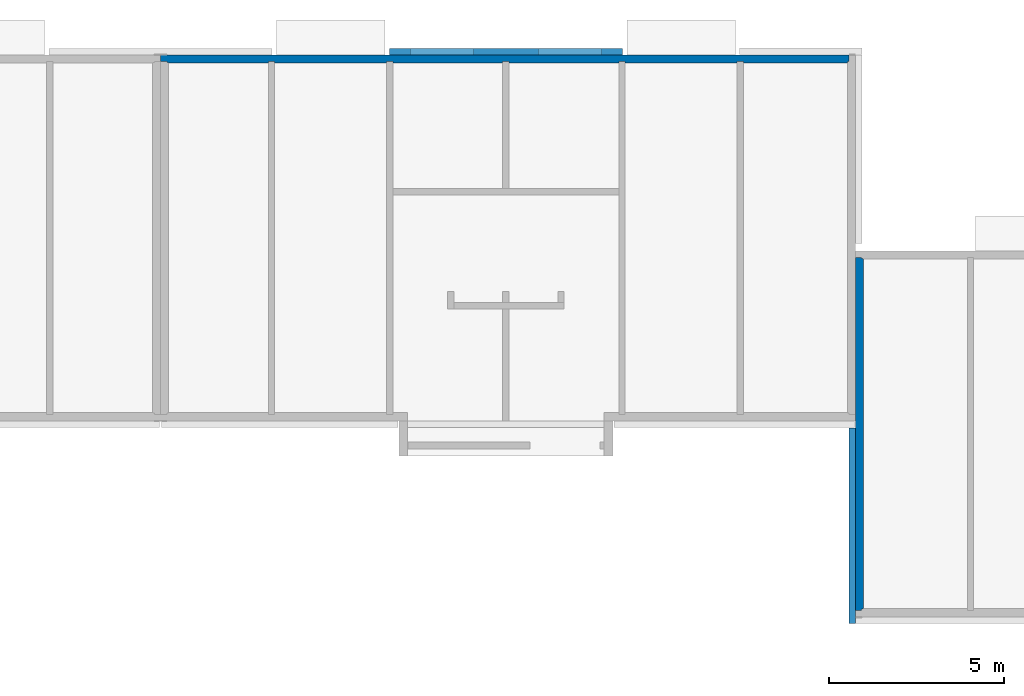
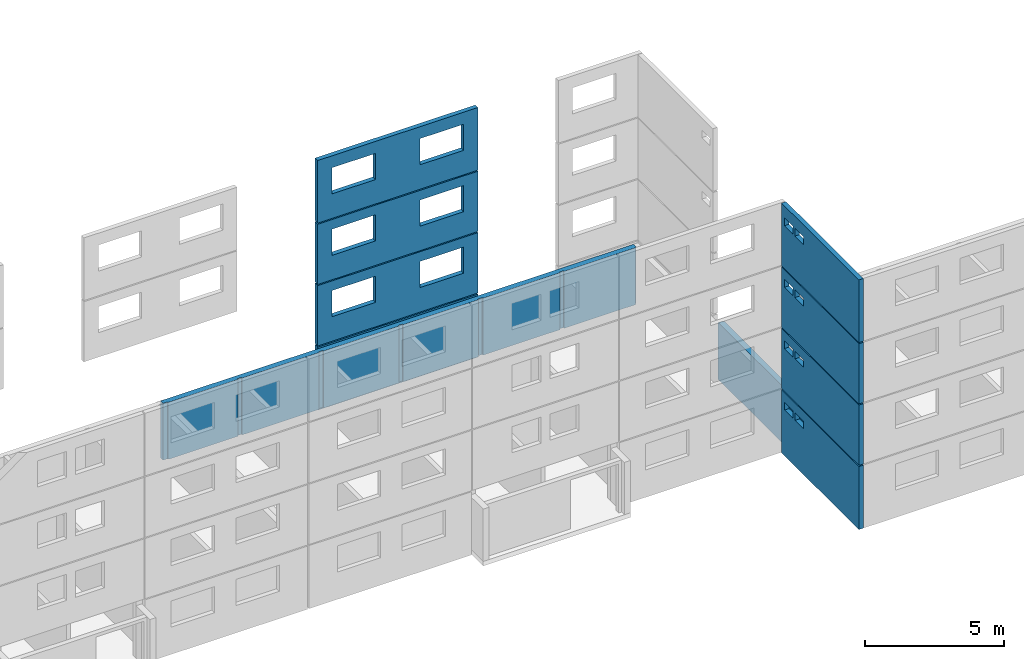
# One storey, part 11 of 15: 10 walls, 16 openings.
"""IFC2X3 building model written with IfcOpenShell, lengths in metres."""

from ifc_helpers import new_model, si_unit, frame, origin, place, context, project, spatial, faceted_brep, element, save


model = new_model("IFC2X3")

# Units and contexts
model_context = context("Model", 3, precision=1e-06, world=origin())
ifc_project = project(units=[si_unit("LENGTHUNIT", "METRE"), si_unit("PLANEANGLEUNIT", "RADIAN")], contexts=[model_context])

# Site, building, storey
site = spatial("IfcSite", under=ifc_project, CompositionType="ELEMENT")
building = spatial("IfcBuilding", under=site, CompositionType="ELEMENT")
storey = spatial("IfcBuildingStorey", under=building, Name="rdc", CompositionType="ELEMENT", Elevation=0.0)

# Wall
placement = place(None, origin())
wall_1_placement = place(placement, frame((39.69999999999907, 4.690077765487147, 0.0), z_axis=(0.0, 0.0, 1.0), x_axis=(0.0, -1.0, 0.0)))
element("IfcWall", 1, at=wall_1_placement, inside=storey, context=model_context, shape_type="Brep", body=[
    faceted_brep([(0.04, 0.18, 2.5), (0.04, 0.22, 2.5), (0.04, 0.22, 0.0), (0.04, 0.18, 0.0), (0.04, 0.22, 2.5), (0.05, 0.22, 2.5), (0.05, 0.22, 0.0), (0.04, 0.22, 0.0), (0.05, 0.22, 2.5), (0.05, 0.23, 2.5), (0.05, 0.23, 0.0), (0.05, 0.22, 0.0), (0.05, 0.23, 2.5), (10.04000021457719, 0.23, 2.5), (10.04000021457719, 0.23, 0.0), (0.05, 0.23, 0.0), (10.04000021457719, 0.23, 2.5), (10.04000021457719, 0.22, 2.5), (10.04000021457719, 0.22, 0.0), (10.04000021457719, 0.23, 0.0), (10.04000021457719, 0.22, 2.5), (10.05000021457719, 0.22, 2.5), (10.05000021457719, 0.22, 0.0), (10.04000021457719, 0.22, 0.0), (10.05000021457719, 0.22, 2.5), (10.05000021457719, 0.18, 2.5), (10.05000021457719, 0.18, 0.0), (10.05000021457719, 0.22, 0.0), (10.05000021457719, 0.18, 2.5), (10.090000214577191, 0.18, 2.5), (10.090000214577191, 0.18, 0.0), (10.05000021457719, 0.18, 0.0), (10.090000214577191, 0.18, 2.5), (10.090000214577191, 0.0, 2.5), (10.090000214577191, 0.0, 0.0), (10.090000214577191, 0.18, 0.0), (10.090000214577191, 0.0, 2.5), (0.0, 0.0, 2.5), (0.0, 0.0, 0.0), (10.090000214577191, 0.0, 0.0), (0.0, 0.0, 2.5), (0.0, 0.18, 2.5), (0.0, 0.18, 0.0), (0.0, 0.0, 0.0), (0.0, 0.18, 2.5), (0.04, 0.18, 2.5), (0.04, 0.18, 0.0), (0.0, 0.18, 0.0), (0.04, 0.18, 2.5), (0.0, 0.18, 2.5), (0.0, 0.0, 2.5), (10.090000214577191, 0.0, 2.5), (10.090000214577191, 0.18, 2.5), (10.05000021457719, 0.18, 2.5), (10.05000021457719, 0.22, 2.5), (10.04000021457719, 0.22, 2.5), (10.04000021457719, 0.23, 2.5), (0.05, 0.23, 2.5), (0.05, 0.22, 2.5), (0.04, 0.22, 2.5), (0.04, 0.18, 0.0), (0.04, 0.22, 0.0), (0.05, 0.22, 0.0), (0.05, 0.23, 0.0), (10.04000021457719, 0.23, 0.0), (10.04000021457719, 0.22, 0.0), (10.05000021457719, 0.22, 0.0), (10.05000021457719, 0.18, 0.0), (10.090000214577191, 0.18, 0.0), (10.090000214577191, 0.0, 0.0), (0.0, 0.0, 0.0), (0.0, 0.18, 0.0)], [[[0, 1, 2, 3]], [[4, 5, 6, 7]], [[8, 9, 10, 11]], [[12, 13, 14, 15]], [[16, 17, 18, 19]], [[20, 21, 22, 23]], [[24, 25, 26, 27]], [[28, 29, 30, 31]], [[32, 33, 34, 35]], [[36, 37, 38, 39]], [[40, 41, 42, 43]], [[44, 45, 46, 47]], [[48, 49, 50, 51, 52, 53, 54, 55, 56, 57, 58, 59]], [[60, 61, 62, 63, 64, 65, 66, 67, 68, 69, 70, 71]]]),
])

# Wall, openings
wall_2_placement = place(placement, frame((33.04499990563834, 10.657077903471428, 8.025000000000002), z_axis=(0.0, 0.0, 1.0), x_axis=(-1.0, 0.0, 0.0)))
wall_2 = element("IfcWall", 2, at=wall_2_placement, inside=storey, context=model_context, shape_type="Brep", body=[
    faceted_brep([(0.0, 0.0, 2.749999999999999), (0.0, 0.187, 2.749999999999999), (0.0, 0.187, 0.0), (0.0, 0.0, 0.0), (0.0, 0.187, 2.749999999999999), (6.659598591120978, 0.187, 2.749999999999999), (6.659598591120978, 0.187, 0.0), (0.0, 0.187, 0.0), (6.659598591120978, 0.187, 2.749999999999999), (6.659598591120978, 0.0, 2.749999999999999), (6.659598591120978, 0.0, 0.0), (6.659598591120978, 0.187, 0.0), (6.659598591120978, 0.0, 2.749999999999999), (0.0, 0.0, 2.749999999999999), (0.0, 0.0, 0.0), (6.659598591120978, 0.0, 0.0), (0.0, 0.0, 2.749999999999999), (6.659598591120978, 0.0, 2.749999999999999), (6.659598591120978, 0.187, 2.749999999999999), (0.0, 0.187, 2.749999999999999), (0.0, 0.0, 0.0), (0.0, 0.187, 0.0), (6.659598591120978, 0.187, 0.0), (6.659598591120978, 0.0, 0.0)], [[[0, 1, 2, 3]], [[4, 5, 6, 7]], [[8, 9, 10, 11]], [[12, 13, 14, 15]], [[16, 17, 18, 19]], [[20, 21, 22, 23]]]),
])
opening_1_placement = place(placement, frame((28.784999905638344, 10.65707790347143, 9.100000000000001), z_axis=(0.0, 0.0, 1.0), x_axis=(-1.0, 0.0, 0.0)))
element("IfcOpeningElement", 3, at=opening_1_placement, cuts=wall_2, Name="Opening", context=model_context, shape_type="Brep", body=[
    faceted_brep([(0.0, 0.186999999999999, 0.0), (1.8, 0.186999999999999, 0.0), (1.8, 0.0, 0.0), (0.0, 0.0, 0.0), (1.8, 0.0, 1.15), (1.8, 0.186999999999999, 1.15), (0.0, 0.186999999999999, 1.15), (0.0, 0.0, 1.15), (0.0, 0.186999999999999, 0.0), (0.0, 0.0, 0.0), (0.0, 0.0, 1.15), (0.0, 0.186999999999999, 1.15), (1.8, 0.186999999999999, 0.0), (0.0, 0.186999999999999, 0.0), (0.0, 0.186999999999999, 1.15), (1.8, 0.186999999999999, 1.15), (1.8, 0.0, 0.0), (1.8, 0.186999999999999, 0.0), (1.8, 0.186999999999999, 1.15), (1.8, 0.0, 1.15), (0.0, 0.0, 0.0), (1.8, 0.0, 0.0), (1.8, 0.0, 1.15), (0.0, 0.0, 1.15)], [[[0, 1, 2, 3]], [[4, 5, 6, 7]], [[8, 9, 10, 11]], [[12, 13, 14, 15]], [[16, 17, 18, 19]], [[20, 21, 22, 23]]]),
])
opening_2_placement = place(placement, frame((32.44499990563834, 10.657077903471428, 9.100000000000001), z_axis=(0.0, 0.0, 1.0), x_axis=(-1.0, 0.0, 0.0)))
element("IfcOpeningElement", 4, at=opening_2_placement, cuts=wall_2, Name="Opening", context=model_context, shape_type="Brep", body=[
    faceted_brep([(0.0, 0.187, 0.0), (1.8, 0.187, 0.0), (1.8, 0.0, 0.0), (0.0, 0.0, 0.0), (1.8, 0.0, 1.15), (1.8, 0.187, 1.15), (0.0, 0.187, 1.15), (0.0, 0.0, 1.15), (0.0, 0.187, 0.0), (0.0, 0.0, 0.0), (0.0, 0.0, 1.15), (0.0, 0.187, 1.15), (1.8, 0.187, 0.0), (0.0, 0.187, 0.0), (0.0, 0.187, 1.15), (1.8, 0.187, 1.15), (1.8, 0.0, 0.0), (1.8, 0.187, 0.0), (1.8, 0.187, 1.15), (1.8, 0.0, 1.15), (0.0, 0.0, 0.0), (1.8, 0.0, 0.0), (1.8, 0.0, 1.15), (0.0, 0.0, 1.15)], [[[0, 1, 2, 3]], [[4, 5, 6, 7]], [[8, 9, 10, 11]], [[12, 13, 14, 15]], [[16, 17, 18, 19]], [[20, 21, 22, 23]]]),
])

wall_3_placement = place(placement, frame((33.04499990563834, 10.657077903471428, 2.625), z_axis=(0.0, 0.0, 1.0), x_axis=(-1.0, 0.0, 0.0)))
wall_3 = element("IfcWall", 5, at=wall_3_placement, inside=storey, context=model_context, shape_type="Brep", body=[
    faceted_brep([(0.0, 0.0, 2.65), (0.0, 0.187, 2.65), (0.0, 0.187, 0.0), (0.0, 0.0, 0.0), (0.0, 0.187, 2.65), (6.659598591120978, 0.187, 2.65), (6.659598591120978, 0.187, 0.0), (0.0, 0.187, 0.0), (6.659598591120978, 0.187, 2.65), (6.659598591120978, 0.0, 2.65), (6.659598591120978, 0.0, 0.0), (6.659598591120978, 0.187, 0.0), (6.659598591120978, 0.0, 2.65), (0.0, 0.0, 2.65), (0.0, 0.0, 0.0), (6.659598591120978, 0.0, 0.0), (0.0, 0.0, 2.65), (6.659598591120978, 0.0, 2.65), (6.659598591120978, 0.187, 2.65), (0.0, 0.187, 2.65), (0.0, 0.0, 0.0), (0.0, 0.187, 0.0), (6.659598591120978, 0.187, 0.0), (6.659598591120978, 0.0, 0.0)], [[[0, 1, 2, 3]], [[4, 5, 6, 7]], [[8, 9, 10, 11]], [[12, 13, 14, 15]], [[16, 17, 18, 19]], [[20, 21, 22, 23]]]),
])
opening_3_placement = place(placement, frame((32.44499990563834, 10.657077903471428, 3.7), z_axis=(0.0, 0.0, 1.0), x_axis=(-1.0, 0.0, 0.0)))
element("IfcOpeningElement", 6, at=opening_3_placement, cuts=wall_3, Name="Opening", context=model_context, shape_type="Brep", body=[
    faceted_brep([(0.0, 0.187, 0.0), (1.8, 0.187, 0.0), (1.8, 0.0, 0.0), (0.0, 0.0, 0.0), (1.8, 0.0, 1.15), (1.8, 0.187, 1.15), (0.0, 0.187, 1.15), (0.0, 0.0, 1.15), (0.0, 0.187, 0.0), (0.0, 0.0, 0.0), (0.0, 0.0, 1.15), (0.0, 0.187, 1.15), (1.8, 0.187, 0.0), (0.0, 0.187, 0.0), (0.0, 0.187, 1.15), (1.8, 0.187, 1.15), (1.8, 0.0, 0.0), (1.8, 0.187, 0.0), (1.8, 0.187, 1.15), (1.8, 0.0, 1.15), (0.0, 0.0, 0.0), (1.8, 0.0, 0.0), (1.8, 0.0, 1.15), (0.0, 0.0, 1.15)], [[[0, 1, 2, 3]], [[4, 5, 6, 7]], [[8, 9, 10, 11]], [[12, 13, 14, 15]], [[16, 17, 18, 19]], [[20, 21, 22, 23]]]),
])
opening_4_placement = place(placement, frame((28.784999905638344, 10.65707790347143, 3.7), z_axis=(0.0, 0.0, 1.0), x_axis=(-1.0, 0.0, 0.0)))
element("IfcOpeningElement", 7, at=opening_4_placement, cuts=wall_3, Name="Opening", context=model_context, shape_type="Brep", body=[
    faceted_brep([(0.0, 0.186999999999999, 0.0), (1.8, 0.186999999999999, 0.0), (1.8, 0.0, 0.0), (0.0, 0.0, 0.0), (1.8, 0.0, 1.15), (1.8, 0.186999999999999, 1.15), (0.0, 0.186999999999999, 1.15), (0.0, 0.0, 1.15), (0.0, 0.186999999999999, 0.0), (0.0, 0.0, 0.0), (0.0, 0.0, 1.15), (0.0, 0.186999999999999, 1.15), (1.8, 0.186999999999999, 0.0), (0.0, 0.186999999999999, 0.0), (0.0, 0.186999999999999, 1.15), (1.8, 0.186999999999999, 1.15), (1.8, 0.0, 0.0), (1.8, 0.186999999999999, 0.0), (1.8, 0.186999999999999, 1.15), (1.8, 0.0, 1.15), (0.0, 0.0, 0.0), (1.8, 0.0, 0.0), (1.8, 0.0, 1.15), (0.0, 0.0, 1.15)], [[[0, 1, 2, 3]], [[4, 5, 6, 7]], [[8, 9, 10, 11]], [[12, 13, 14, 15]], [[16, 17, 18, 19]], [[20, 21, 22, 23]]]),
])

wall_4_placement = place(placement, frame((33.04499990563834, 10.657077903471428, 5.325000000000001), z_axis=(0.0, 0.0, 1.0), x_axis=(-1.0, 0.0, 0.0)))
wall_4 = element("IfcWall", 8, at=wall_4_placement, inside=storey, context=model_context, shape_type="Brep", body=[
    faceted_brep([(0.0, 0.0, 2.65), (0.0, 0.187, 2.65), (0.0, 0.187, 0.0), (0.0, 0.0, 0.0), (0.0, 0.187, 2.65), (6.659598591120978, 0.187, 2.65), (6.659598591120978, 0.187, 0.0), (0.0, 0.187, 0.0), (6.659598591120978, 0.187, 2.65), (6.659598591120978, 0.0, 2.65), (6.659598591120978, 0.0, 0.0), (6.659598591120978, 0.187, 0.0), (6.659598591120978, 0.0, 2.65), (0.0, 0.0, 2.65), (0.0, 0.0, 0.0), (6.659598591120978, 0.0, 0.0), (0.0, 0.0, 2.65), (6.659598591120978, 0.0, 2.65), (6.659598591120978, 0.187, 2.65), (0.0, 0.187, 2.65), (0.0, 0.0, 0.0), (0.0, 0.187, 0.0), (6.659598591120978, 0.187, 0.0), (6.659598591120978, 0.0, 0.0)], [[[0, 1, 2, 3]], [[4, 5, 6, 7]], [[8, 9, 10, 11]], [[12, 13, 14, 15]], [[16, 17, 18, 19]], [[20, 21, 22, 23]]]),
])
opening_5_placement = place(placement, frame((28.784999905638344, 10.65707790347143, 6.4), z_axis=(0.0, 0.0, 1.0), x_axis=(-1.0, 0.0, 0.0)))
element("IfcOpeningElement", 9, at=opening_5_placement, cuts=wall_4, Name="Opening", context=model_context, shape_type="Brep", body=[
    faceted_brep([(0.0, 0.186999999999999, 0.0), (1.8, 0.186999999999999, 0.0), (1.8, 0.0, 0.0), (0.0, 0.0, 0.0), (1.8, 0.0, 1.15), (1.8, 0.186999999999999, 1.15), (0.0, 0.186999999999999, 1.15), (0.0, 0.0, 1.15), (0.0, 0.186999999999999, 0.0), (0.0, 0.0, 0.0), (0.0, 0.0, 1.15), (0.0, 0.186999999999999, 1.15), (1.8, 0.186999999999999, 0.0), (0.0, 0.186999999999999, 0.0), (0.0, 0.186999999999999, 1.15), (1.8, 0.186999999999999, 1.15), (1.8, 0.0, 0.0), (1.8, 0.186999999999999, 0.0), (1.8, 0.186999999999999, 1.15), (1.8, 0.0, 1.15), (0.0, 0.0, 0.0), (1.8, 0.0, 0.0), (1.8, 0.0, 1.15), (0.0, 0.0, 1.15)], [[[0, 1, 2, 3]], [[4, 5, 6, 7]], [[8, 9, 10, 11]], [[12, 13, 14, 15]], [[16, 17, 18, 19]], [[20, 21, 22, 23]]]),
])
opening_6_placement = place(placement, frame((32.44499990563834, 10.657077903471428, 6.4), z_axis=(0.0, 0.0, 1.0), x_axis=(-1.0, 0.0, 0.0)))
element("IfcOpeningElement", 10, at=opening_6_placement, cuts=wall_4, Name="Opening", context=model_context, shape_type="Brep", body=[
    faceted_brep([(0.0, 0.187, 0.0), (1.8, 0.187, 0.0), (1.8, 0.0, 0.0), (0.0, 0.0, 0.0), (1.8, 0.0, 1.15), (1.8, 0.187, 1.15), (0.0, 0.187, 1.15), (0.0, 0.0, 1.15), (0.0, 0.187, 0.0), (0.0, 0.0, 0.0), (0.0, 0.0, 1.15), (0.0, 0.187, 1.15), (1.8, 0.187, 0.0), (0.0, 0.187, 0.0), (0.0, 0.187, 1.15), (1.8, 0.187, 1.15), (1.8, 0.0, 0.0), (1.8, 0.187, 0.0), (1.8, 0.187, 1.15), (1.8, 0.0, 1.15), (0.0, 0.0, 0.0), (1.8, 0.0, 0.0), (1.8, 0.0, 1.15), (0.0, 0.0, 1.15)], [[[0, 1, 2, 3]], [[4, 5, 6, 7]], [[8, 9, 10, 11]], [[12, 13, 14, 15]], [[16, 17, 18, 19]], [[20, 21, 22, 23]]]),
])

wall_5_placement = place(placement, frame((33.04499990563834, 10.657077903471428, -0.2), z_axis=(0.0, 0.0, 1.0), x_axis=(-1.0, 0.0, 0.0)))
wall_5 = element("IfcWall", 11, at=wall_5_placement, inside=storey, context=model_context, shape_type="Brep", body=[
    faceted_brep([(0.0, 0.0, 2.775), (0.0, 0.187, 2.775), (0.0, 0.187, 0.0), (0.0, 0.0, 0.0), (0.0, 0.187, 2.775), (6.659598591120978, 0.187, 2.775), (6.659598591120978, 0.187, 0.0), (0.0, 0.187, 0.0), (6.659598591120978, 0.187, 2.775), (6.659598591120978, 0.0, 2.775), (6.659598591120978, 0.0, 0.0), (6.659598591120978, 0.187, 0.0), (6.659598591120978, 0.0, 2.775), (0.0, 0.0, 2.775), (0.0, 0.0, 0.0), (6.659598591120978, 0.0, 0.0), (0.0, 0.0, 2.775), (6.659598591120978, 0.0, 2.775), (6.659598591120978, 0.187, 2.775), (0.0, 0.187, 2.775), (0.0, 0.0, 0.0), (0.0, 0.187, 0.0), (6.659598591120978, 0.187, 0.0), (6.659598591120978, 0.0, 0.0)], [[[0, 1, 2, 3]], [[4, 5, 6, 7]], [[8, 9, 10, 11]], [[12, 13, 14, 15]], [[16, 17, 18, 19]], [[20, 21, 22, 23]]]),
])
opening_7_placement = place(placement, frame((32.44499990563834, 10.657077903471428, 1.0), z_axis=(0.0, 0.0, 1.0), x_axis=(-1.0, 0.0, 0.0)))
element("IfcOpeningElement", 12, at=opening_7_placement, cuts=wall_5, Name="Opening", context=model_context, shape_type="Brep", body=[
    faceted_brep([(0.0, 0.187, 0.0), (1.8, 0.187, 0.0), (1.8, 0.0, 0.0), (0.0, 0.0, 0.0), (1.8, 0.0, 1.15), (1.8, 0.187, 1.15), (0.0, 0.187, 1.15), (0.0, 0.0, 1.15), (0.0, 0.187, 0.0), (0.0, 0.0, 0.0), (0.0, 0.0, 1.15), (0.0, 0.187, 1.15), (1.8, 0.187, 0.0), (0.0, 0.187, 0.0), (0.0, 0.187, 1.15), (1.8, 0.187, 1.15), (1.8, 0.0, 0.0), (1.8, 0.187, 0.0), (1.8, 0.187, 1.15), (1.8, 0.0, 1.15), (0.0, 0.0, 0.0), (1.8, 0.0, 0.0), (1.8, 0.0, 1.15), (0.0, 0.0, 1.15)], [[[0, 1, 2, 3]], [[4, 5, 6, 7]], [[8, 9, 10, 11]], [[12, 13, 14, 15]], [[16, 17, 18, 19]], [[20, 21, 22, 23]]]),
])
opening_8_placement = place(placement, frame((28.784999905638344, 10.65707790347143, 1.0), z_axis=(0.0, 0.0, 1.0), x_axis=(-1.0, 0.0, 0.0)))
element("IfcOpeningElement", 13, at=opening_8_placement, cuts=wall_5, Name="Opening", context=model_context, shape_type="Brep", body=[
    faceted_brep([(0.0, 0.186999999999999, 0.0), (1.8, 0.186999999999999, 0.0), (1.8, 0.0, 0.0), (0.0, 0.0, 0.0), (1.8, 0.0, 1.15), (1.8, 0.186999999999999, 1.15), (0.0, 0.186999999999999, 1.15), (0.0, 0.0, 1.15), (0.0, 0.186999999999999, 0.0), (0.0, 0.0, 0.0), (0.0, 0.0, 1.15), (0.0, 0.186999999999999, 1.15), (1.8, 0.186999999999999, 0.0), (0.0, 0.186999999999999, 0.0), (0.0, 0.186999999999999, 1.15), (1.8, 0.186999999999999, 1.15), (1.8, 0.0, 0.0), (1.8, 0.186999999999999, 0.0), (1.8, 0.186999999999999, 1.15), (1.8, 0.0, 1.15), (0.0, 0.0, 0.0), (1.8, 0.0, 0.0), (1.8, 0.0, 1.15), (0.0, 0.0, 1.15)], [[[0, 1, 2, 3]], [[4, 5, 6, 7]], [[8, 9, 10, 11]], [[12, 13, 14, 15]], [[16, 17, 18, 19]], [[20, 21, 22, 23]]]),
])

wall_6_placement = place(placement, frame((39.69999999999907, -5.766922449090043, 8.025000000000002), z_axis=(0.0, 0.0, 1.0), x_axis=(0.0, 1.0, 0.0)))
wall_6 = element("IfcWall", 14, at=wall_6_placement, inside=storey, context=model_context, shape_type="Brep", body=[
    faceted_brep([(0.0, 0.0, 2.75), (0.0, 0.187, 2.75), (0.0, 0.187, 0.0), (0.0, 0.0, 0.0), (0.0, 0.187, 2.75), (5.575170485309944, 0.187, 2.75), (5.575170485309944, 0.187, 0.0), (0.0, 0.187, 0.0), (5.575170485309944, 0.187, 2.75), (5.575170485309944, 0.0, 2.75), (5.575170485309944, 0.0, 0.0), (5.575170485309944, 0.187, 0.0), (5.575170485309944, 0.0, 2.75), (0.0, 0.0, 2.75), (0.0, 0.0, 0.0), (5.575170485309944, 0.0, 0.0), (0.0, 0.0, 2.75), (5.575170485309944, 0.0, 2.75), (5.575170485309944, 0.187, 2.75), (0.0, 0.187, 2.75), (0.0, 0.0, 0.0), (0.0, 0.187, 0.0), (5.575170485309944, 0.187, 0.0), (5.575170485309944, 0.0, 0.0)], [[[0, 1, 2, 3]], [[4, 5, 6, 7]], [[8, 9, 10, 11]], [[12, 13, 14, 15]], [[16, 17, 18, 19]], [[20, 21, 22, 23]]]),
])
opening_9_placement = place(placement, frame((39.512999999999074, -1.158922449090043, 9.910000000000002), z_axis=(0.0, 0.0, 1.0), x_axis=(0.0, -1.0, 0.0)))
element("IfcOpeningElement", 15, at=opening_9_placement, cuts=wall_6, Name="Opening", context=model_context, shape_type="Brep", body=[
    faceted_brep([(0.0, 0.187, 0.0), (0.6, 0.187, 0.0), (0.6, 0.0, 0.0), (0.0, 0.0, 0.0), (0.6, 0.0, 0.34), (0.6, 0.187, 0.34), (0.0, 0.187, 0.34), (0.0, 0.0, 0.34), (0.0, 0.187, 0.0), (0.0, 0.0, 0.0), (0.0, 0.0, 0.34), (0.0, 0.187, 0.34), (0.6, 0.187, 0.0), (0.0, 0.187, 0.0), (0.0, 0.187, 0.34), (0.6, 0.187, 0.34), (0.6, 0.0, 0.0), (0.6, 0.187, 0.0), (0.6, 0.187, 0.34), (0.6, 0.0, 0.34), (0.0, 0.0, 0.0), (0.6, 0.0, 0.0), (0.6, 0.0, 0.34), (0.0, 0.0, 0.34)], [[[0, 1, 2, 3]], [[4, 5, 6, 7]], [[8, 9, 10, 11]], [[12, 13, 14, 15]], [[16, 17, 18, 19]], [[20, 21, 22, 23]]]),
])
opening_10_placement = place(placement, frame((39.512999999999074, -0.408922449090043, 9.910000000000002), z_axis=(0.0, 0.0, 1.0), x_axis=(0.0, -1.0, 0.0)))
element("IfcOpeningElement", 16, at=opening_10_placement, cuts=wall_6, Name="Opening", context=model_context, shape_type="Brep", body=[
    faceted_brep([(0.0, 0.186999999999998, 0.0), (0.6, 0.186999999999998, 0.0), (0.6, 0.0, 0.0), (0.0, 0.0, 0.0), (0.6, 0.0, 0.34), (0.6, 0.186999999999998, 0.34), (0.0, 0.186999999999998, 0.34), (0.0, 0.0, 0.34), (0.0, 0.186999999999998, 0.0), (0.0, 0.0, 0.0), (0.0, 0.0, 0.34), (0.0, 0.186999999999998, 0.34), (0.6, 0.186999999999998, 0.0), (0.0, 0.186999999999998, 0.0), (0.0, 0.186999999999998, 0.34), (0.6, 0.186999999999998, 0.34), (0.6, 0.0, 0.0), (0.6, 0.186999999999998, 0.0), (0.6, 0.186999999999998, 0.34), (0.6, 0.0, 0.34), (0.0, 0.0, 0.0), (0.6, 0.0, 0.0), (0.6, 0.0, 0.34), (0.0, 0.0, 0.34)], [[[0, 1, 2, 3]], [[4, 5, 6, 7]], [[8, 9, 10, 11]], [[12, 13, 14, 15]], [[16, 17, 18, 19]], [[20, 21, 22, 23]]]),
])

wall_7_placement = place(placement, frame((39.69999999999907, -5.766922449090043, 2.625000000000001), z_axis=(0.0, 0.0, 1.0), x_axis=(0.0, 1.0, 0.0)))
wall_7 = element("IfcWall", 17, at=wall_7_placement, inside=storey, context=model_context, shape_type="Brep", body=[
    faceted_brep([(0.0, 0.0, 2.65), (0.0, 0.187, 2.65), (0.0, 0.187, 0.0), (0.0, 0.0, 0.0), (0.0, 0.187, 2.65), (5.575170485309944, 0.187, 2.65), (5.575170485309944, 0.187, 0.0), (0.0, 0.187, 0.0), (5.575170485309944, 0.187, 2.65), (5.575170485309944, 0.0, 2.65), (5.575170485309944, 0.0, 0.0), (5.575170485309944, 0.187, 0.0), (5.575170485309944, 0.0, 2.65), (0.0, 0.0, 2.65), (0.0, 0.0, 0.0), (5.575170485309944, 0.0, 0.0), (0.0, 0.0, 2.65), (5.575170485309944, 0.0, 2.65), (5.575170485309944, 0.187, 2.65), (0.0, 0.187, 2.65), (0.0, 0.0, 0.0), (0.0, 0.187, 0.0), (5.575170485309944, 0.187, 0.0), (5.575170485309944, 0.0, 0.0)], [[[0, 1, 2, 3]], [[4, 5, 6, 7]], [[8, 9, 10, 11]], [[12, 13, 14, 15]], [[16, 17, 18, 19]], [[20, 21, 22, 23]]]),
])
opening_11_placement = place(placement, frame((39.512999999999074, -0.408922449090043, 4.510000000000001), z_axis=(0.0, 0.0, 1.0), x_axis=(0.0, -1.0, 0.0)))
element("IfcOpeningElement", 18, at=opening_11_placement, cuts=wall_7, Name="Opening", context=model_context, shape_type="Brep", body=[
    faceted_brep([(0.0, 0.186999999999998, 0.0), (0.6, 0.186999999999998, 0.0), (0.6, 0.0, 0.0), (0.0, 0.0, 0.0), (0.6, 0.0, 0.34), (0.6, 0.186999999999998, 0.34), (0.0, 0.186999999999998, 0.34), (0.0, 0.0, 0.34), (0.0, 0.186999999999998, 0.0), (0.0, 0.0, 0.0), (0.0, 0.0, 0.34), (0.0, 0.186999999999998, 0.34), (0.6, 0.186999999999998, 0.0), (0.0, 0.186999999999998, 0.0), (0.0, 0.186999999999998, 0.34), (0.6, 0.186999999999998, 0.34), (0.6, 0.0, 0.0), (0.6, 0.186999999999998, 0.0), (0.6, 0.186999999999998, 0.34), (0.6, 0.0, 0.34), (0.0, 0.0, 0.0), (0.6, 0.0, 0.0), (0.6, 0.0, 0.34), (0.0, 0.0, 0.34)], [[[0, 1, 2, 3]], [[4, 5, 6, 7]], [[8, 9, 10, 11]], [[12, 13, 14, 15]], [[16, 17, 18, 19]], [[20, 21, 22, 23]]]),
])
opening_12_placement = place(placement, frame((39.512999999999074, -1.158922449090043, 4.510000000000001), z_axis=(0.0, 0.0, 1.0), x_axis=(0.0, -1.0, 0.0)))
element("IfcOpeningElement", 19, at=opening_12_placement, cuts=wall_7, Name="Opening", context=model_context, shape_type="Brep", body=[
    faceted_brep([(0.0, 0.187, 0.0), (0.6, 0.187, 0.0), (0.6, 0.0, 0.0), (0.0, 0.0, 0.0), (0.6, 0.0, 0.34), (0.6, 0.187, 0.34), (0.0, 0.187, 0.34), (0.0, 0.0, 0.34), (0.0, 0.187, 0.0), (0.0, 0.0, 0.0), (0.0, 0.0, 0.34), (0.0, 0.187, 0.34), (0.6, 0.187, 0.0), (0.0, 0.187, 0.0), (0.0, 0.187, 0.34), (0.6, 0.187, 0.34), (0.6, 0.0, 0.0), (0.6, 0.187, 0.0), (0.6, 0.187, 0.34), (0.6, 0.0, 0.34), (0.0, 0.0, 0.0), (0.6, 0.0, 0.0), (0.6, 0.0, 0.34), (0.0, 0.0, 0.34)], [[[0, 1, 2, 3]], [[4, 5, 6, 7]], [[8, 9, 10, 11]], [[12, 13, 14, 15]], [[16, 17, 18, 19]], [[20, 21, 22, 23]]]),
])

wall_8_placement = place(placement, frame((39.69999999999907, -5.766922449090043, 5.325000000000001), z_axis=(0.0, 0.0, 1.0), x_axis=(0.0, 1.0, 0.0)))
wall_8 = element("IfcWall", 20, at=wall_8_placement, inside=storey, context=model_context, shape_type="Brep", body=[
    faceted_brep([(0.0, 0.0, 2.65), (0.0, 0.187, 2.65), (0.0, 0.187, 0.0), (0.0, 0.0, 0.0), (0.0, 0.187, 2.65), (5.575170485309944, 0.187, 2.65), (5.575170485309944, 0.187, 0.0), (0.0, 0.187, 0.0), (5.575170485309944, 0.187, 2.65), (5.575170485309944, 0.0, 2.65), (5.575170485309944, 0.0, 0.0), (5.575170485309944, 0.187, 0.0), (5.575170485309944, 0.0, 2.65), (0.0, 0.0, 2.65), (0.0, 0.0, 0.0), (5.575170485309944, 0.0, 0.0), (0.0, 0.0, 2.65), (5.575170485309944, 0.0, 2.65), (5.575170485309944, 0.187, 2.65), (0.0, 0.187, 2.65), (0.0, 0.0, 0.0), (0.0, 0.187, 0.0), (5.575170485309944, 0.187, 0.0), (5.575170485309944, 0.0, 0.0)], [[[0, 1, 2, 3]], [[4, 5, 6, 7]], [[8, 9, 10, 11]], [[12, 13, 14, 15]], [[16, 17, 18, 19]], [[20, 21, 22, 23]]]),
])
opening_13_placement = place(placement, frame((39.512999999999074, -1.158922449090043, 7.210000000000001), z_axis=(0.0, 0.0, 1.0), x_axis=(0.0, -1.0, 0.0)))
element("IfcOpeningElement", 21, at=opening_13_placement, cuts=wall_8, Name="Opening", context=model_context, shape_type="Brep", body=[
    faceted_brep([(0.0, 0.187, 0.0), (0.6, 0.187, 0.0), (0.6, 0.0, 0.0), (0.0, 0.0, 0.0), (0.6, 0.0, 0.34), (0.6, 0.187, 0.34), (0.0, 0.187, 0.34), (0.0, 0.0, 0.34), (0.0, 0.187, 0.0), (0.0, 0.0, 0.0), (0.0, 0.0, 0.34), (0.0, 0.187, 0.34), (0.6, 0.187, 0.0), (0.0, 0.187, 0.0), (0.0, 0.187, 0.34), (0.6, 0.187, 0.34), (0.6, 0.0, 0.0), (0.6, 0.187, 0.0), (0.6, 0.187, 0.34), (0.6, 0.0, 0.34), (0.0, 0.0, 0.0), (0.6, 0.0, 0.0), (0.6, 0.0, 0.34), (0.0, 0.0, 0.34)], [[[0, 1, 2, 3]], [[4, 5, 6, 7]], [[8, 9, 10, 11]], [[12, 13, 14, 15]], [[16, 17, 18, 19]], [[20, 21, 22, 23]]]),
])
opening_14_placement = place(placement, frame((39.512999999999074, -0.408922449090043, 7.210000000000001), z_axis=(0.0, 0.0, 1.0), x_axis=(0.0, -1.0, 0.0)))
element("IfcOpeningElement", 22, at=opening_14_placement, cuts=wall_8, Name="Opening", context=model_context, shape_type="Brep", body=[
    faceted_brep([(0.0, 0.186999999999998, 0.0), (0.6, 0.186999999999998, 0.0), (0.6, 0.0, 0.0), (0.0, 0.0, 0.0), (0.6, 0.0, 0.34), (0.6, 0.186999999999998, 0.34), (0.0, 0.186999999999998, 0.34), (0.0, 0.0, 0.34), (0.0, 0.186999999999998, 0.0), (0.0, 0.0, 0.0), (0.0, 0.0, 0.34), (0.0, 0.186999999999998, 0.34), (0.6, 0.186999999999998, 0.0), (0.0, 0.186999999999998, 0.0), (0.0, 0.186999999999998, 0.34), (0.6, 0.186999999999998, 0.34), (0.6, 0.0, 0.0), (0.6, 0.186999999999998, 0.0), (0.6, 0.186999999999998, 0.34), (0.6, 0.0, 0.34), (0.0, 0.0, 0.0), (0.6, 0.0, 0.0), (0.6, 0.0, 0.34), (0.0, 0.0, 0.34)], [[[0, 1, 2, 3]], [[4, 5, 6, 7]], [[8, 9, 10, 11]], [[12, 13, 14, 15]], [[16, 17, 18, 19]], [[20, 21, 22, 23]]]),
])

wall_9_placement = place(placement, frame((39.69999999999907, -5.766922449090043, -0.199999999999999), z_axis=(0.0, 0.0, 1.0), x_axis=(0.0, 1.0, 0.0)))
wall_9 = element("IfcWall", 23, at=wall_9_placement, inside=storey, context=model_context, shape_type="Brep", body=[
    faceted_brep([(0.0, 0.0, 2.775), (0.0, 0.187, 2.775), (0.0, 0.187, 0.0), (0.0, 0.0, 0.0), (0.0, 0.187, 2.775), (5.575170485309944, 0.187, 2.775), (5.575170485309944, 0.187, 0.0), (0.0, 0.187, 0.0), (5.575170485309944, 0.187, 2.775), (5.575170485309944, 0.0, 2.775), (5.575170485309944, 0.0, 0.0), (5.575170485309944, 0.187, 0.0), (5.575170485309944, 0.0, 2.775), (0.0, 0.0, 2.775), (0.0, 0.0, 0.0), (5.575170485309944, 0.0, 0.0), (0.0, 0.0, 2.775), (5.575170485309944, 0.0, 2.775), (5.575170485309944, 0.187, 2.775), (0.0, 0.187, 2.775), (0.0, 0.0, 0.0), (0.0, 0.187, 0.0), (5.575170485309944, 0.187, 0.0), (5.575170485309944, 0.0, 0.0)], [[[0, 1, 2, 3]], [[4, 5, 6, 7]], [[8, 9, 10, 11]], [[12, 13, 14, 15]], [[16, 17, 18, 19]], [[20, 21, 22, 23]]]),
])
opening_15_placement = place(placement, frame((39.512999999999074, -1.158922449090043, 1.810000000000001), z_axis=(0.0, 0.0, 1.0), x_axis=(0.0, -1.0, 0.0)))
element("IfcOpeningElement", 24, at=opening_15_placement, cuts=wall_9, Name="Opening", context=model_context, shape_type="Brep", body=[
    faceted_brep([(0.0, 0.187, 0.0), (0.6, 0.187, 0.0), (0.6, 0.0, 0.0), (0.0, 0.0, 0.0), (0.6, 0.0, 0.34), (0.6, 0.187, 0.34), (0.0, 0.187, 0.34), (0.0, 0.0, 0.34), (0.0, 0.187, 0.0), (0.0, 0.0, 0.0), (0.0, 0.0, 0.34), (0.0, 0.187, 0.34), (0.6, 0.187, 0.0), (0.0, 0.187, 0.0), (0.0, 0.187, 0.34), (0.6, 0.187, 0.34), (0.6, 0.0, 0.0), (0.6, 0.187, 0.0), (0.6, 0.187, 0.34), (0.6, 0.0, 0.34), (0.0, 0.0, 0.0), (0.6, 0.0, 0.0), (0.6, 0.0, 0.34), (0.0, 0.0, 0.34)], [[[0, 1, 2, 3]], [[4, 5, 6, 7]], [[8, 9, 10, 11]], [[12, 13, 14, 15]], [[16, 17, 18, 19]], [[20, 21, 22, 23]]]),
])
opening_16_placement = place(placement, frame((39.512999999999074, -0.408922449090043, 1.810000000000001), z_axis=(0.0, 0.0, 1.0), x_axis=(0.0, -1.0, 0.0)))
element("IfcOpeningElement", 25, at=opening_16_placement, cuts=wall_9, Name="Opening", context=model_context, shape_type="Brep", body=[
    faceted_brep([(0.0, 0.186999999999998, 0.0), (0.6, 0.186999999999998, 0.0), (0.6, 0.0, 0.0), (0.0, 0.0, 0.0), (0.6, 0.0, 0.34), (0.6, 0.186999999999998, 0.34), (0.0, 0.186999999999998, 0.34), (0.0, 0.0, 0.34), (0.0, 0.186999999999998, 0.0), (0.0, 0.0, 0.0), (0.0, 0.0, 0.34), (0.0, 0.186999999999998, 0.34), (0.6, 0.186999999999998, 0.0), (0.0, 0.186999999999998, 0.0), (0.0, 0.186999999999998, 0.34), (0.6, 0.186999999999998, 0.34), (0.6, 0.0, 0.0), (0.6, 0.186999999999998, 0.0), (0.6, 0.186999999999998, 0.34), (0.6, 0.0, 0.34), (0.0, 0.0, 0.0), (0.6, 0.0, 0.0), (0.6, 0.0, 0.34), (0.0, 0.0, 0.34)], [[[0, 1, 2, 3]], [[4, 5, 6, 7]], [[8, 9, 10, 11]], [[12, 13, 14, 15]], [[16, 17, 18, 19]], [[20, 21, 22, 23]]]),
])

# Wall
wall_10_placement = place(placement, frame((39.51999999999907, 10.470077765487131, 0.0), z_axis=(0.0, 0.0, 1.0), x_axis=(-1.0, 0.0, 0.0)))
element("IfcWall", 26, at=wall_10_placement, inside=storey, context=model_context, shape_type="Brep", body=[
    faceted_brep([(19.44999999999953, 0.23, 2.5), (19.44999999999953, 0.22, 2.5), (19.44999999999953, 0.22, 0.0), (19.44999999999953, 0.23, 0.0), (19.44999999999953, 0.22, 2.5), (19.48999999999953, 0.22, 2.5), (19.48999999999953, 0.22, 0.0), (19.44999999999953, 0.22, 0.0), (19.48999999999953, 0.22, 2.5), (19.48999999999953, 0.18, 2.5), (19.48999999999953, 0.18, 0.0), (19.48999999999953, 0.22, 0.0), (19.48999999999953, 0.18, 2.5), (19.669999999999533, 0.18, 2.5), (19.669999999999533, 0.18, 0.0), (19.48999999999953, 0.18, 0.0), (19.669999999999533, 0.18, 2.5), (19.669999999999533, 0.0, 2.5), (19.669999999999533, 0.0, 0.0), (19.669999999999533, 0.18, 0.0), (19.669999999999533, 0.0, 2.5), (0.0, 0.0, 2.5), (0.0, 0.0, 0.0), (19.669999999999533, 0.0, 0.0), (0.0, 0.0, 2.5), (0.0, 0.18, 2.5), (0.0, 0.18, 0.0), (0.0, 0.0, 0.0), (0.0, 0.18, 2.5), (0.04, 0.18, 2.5), (0.04, 0.18, 0.0), (0.0, 0.18, 0.0), (0.04, 0.18, 2.5), (0.04, 0.22, 2.5), (0.04, 0.22, 0.0), (0.04, 0.18, 0.0), (0.04, 0.22, 2.5), (0.05, 0.22, 2.5), (0.05, 0.22, 0.0), (0.04, 0.22, 0.0), (0.05, 0.22, 2.5), (0.05, 0.23, 2.5), (0.05, 0.23, 0.0), (0.05, 0.22, 0.0), (0.05, 0.23, 2.5), (3.019999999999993, 0.23, 2.5), (3.019999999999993, 0.23, 0.0), (0.05, 0.23, 0.0), (3.019999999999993, 0.23, 2.5), (3.019999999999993, 0.18, 2.5), (3.019999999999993, 0.18, 0.0), (3.019999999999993, 0.23, 0.0), (3.019999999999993, 0.18, 2.5), (3.199999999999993, 0.18, 2.5), (3.199999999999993, 0.18, 0.0), (3.019999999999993, 0.18, 0.0), (3.199999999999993, 0.18, 2.5), (3.199999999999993, 0.23, 2.5), (3.199999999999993, 0.23, 0.0), (3.199999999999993, 0.18, 0.0), (3.199999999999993, 0.23, 2.5), (6.4, 0.229999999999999, 2.5), (6.4, 0.229999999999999, 0.0), (3.199999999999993, 0.23, 0.0), (6.4, 0.229999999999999, 2.5), (6.4, 0.180000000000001, 2.5), (6.4, 0.180000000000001, 0.0), (6.4, 0.229999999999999, 0.0), (6.4, 0.180000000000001, 2.5), (6.58, 0.180000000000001, 2.5), (6.58, 0.180000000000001, 0.0), (6.4, 0.180000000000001, 0.0), (6.58, 0.180000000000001, 2.5), (6.58, 0.229999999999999, 2.5), (6.58, 0.229999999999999, 0.0), (6.58, 0.180000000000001, 0.0), (6.58, 0.229999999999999, 2.5), (9.714999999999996, 0.229999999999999, 2.5), (9.714999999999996, 0.229999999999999, 0.0), (6.58, 0.229999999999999, 0.0), (9.714999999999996, 0.229999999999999, 2.5), (9.714999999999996, 0.179999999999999, 2.5), (9.714999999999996, 0.179999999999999, 0.0), (9.714999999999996, 0.229999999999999, 0.0), (9.714999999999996, 0.179999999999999, 2.5), (9.894999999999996, 0.179999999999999, 2.5), (9.894999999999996, 0.179999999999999, 0.0), (9.714999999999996, 0.179999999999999, 0.0), (9.894999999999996, 0.179999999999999, 2.5), (9.894999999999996, 0.229999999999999, 2.5), (9.894999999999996, 0.229999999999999, 0.0), (9.894999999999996, 0.179999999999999, 0.0), (9.894999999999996, 0.229999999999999, 2.5), (13.029999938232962, 0.229999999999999, 2.5), (13.029999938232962, 0.229999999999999, 0.0), (9.894999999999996, 0.229999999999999, 0.0), (13.029999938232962, 0.229999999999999, 2.5), (13.029999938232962, 0.179999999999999, 2.5), (13.029999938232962, 0.179999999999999, 0.0), (13.029999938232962, 0.229999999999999, 0.0), (13.029999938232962, 0.179999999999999, 2.5), (13.209999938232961, 0.179999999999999, 2.5), (13.209999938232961, 0.179999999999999, 0.0), (13.029999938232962, 0.179999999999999, 0.0), (13.209999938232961, 0.179999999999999, 2.5), (13.209999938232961, 0.229999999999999, 2.5), (13.209999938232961, 0.229999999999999, 0.0), (13.209999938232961, 0.179999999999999, 0.0), (13.209999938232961, 0.229999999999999, 2.5), (16.41000000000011, 0.23, 2.5), (16.41000000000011, 0.23, 0.0), (13.209999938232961, 0.229999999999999, 0.0), (16.41000000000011, 0.23, 2.5), (16.41000000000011, 0.18, 2.5), (16.41000000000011, 0.18, 0.0), (16.41000000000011, 0.23, 0.0), (16.41000000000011, 0.18, 2.5), (16.59000000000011, 0.18, 2.5), (16.59000000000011, 0.18, 0.0), (16.41000000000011, 0.18, 0.0), (16.59000000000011, 0.18, 2.5), (16.59000000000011, 0.23, 2.5), (16.59000000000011, 0.23, 0.0), (16.59000000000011, 0.18, 0.0), (16.59000000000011, 0.23, 2.5), (19.44999999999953, 0.23, 2.5), (19.44999999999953, 0.23, 0.0), (16.59000000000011, 0.23, 0.0), (19.44999999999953, 0.23, 2.5), (16.59000000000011, 0.23, 2.5), (16.59000000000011, 0.18, 2.5), (16.41000000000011, 0.18, 2.5), (16.41000000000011, 0.23, 2.5), (13.209999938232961, 0.229999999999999, 2.5), (13.209999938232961, 0.179999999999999, 2.5), (13.029999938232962, 0.179999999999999, 2.5), (13.029999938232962, 0.229999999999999, 2.5), (9.894999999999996, 0.229999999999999, 2.5), (9.894999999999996, 0.179999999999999, 2.5), (9.714999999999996, 0.179999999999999, 2.5), (9.714999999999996, 0.229999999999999, 2.5), (6.58, 0.229999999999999, 2.5), (6.58, 0.180000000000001, 2.5), (6.4, 0.180000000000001, 2.5), (6.4, 0.229999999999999, 2.5), (3.199999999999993, 0.23, 2.5), (3.199999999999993, 0.18, 2.5), (3.019999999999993, 0.18, 2.5), (3.019999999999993, 0.23, 2.5), (0.05, 0.23, 2.5), (0.05, 0.22, 2.5), (0.04, 0.22, 2.5), (0.04, 0.18, 2.5), (0.0, 0.18, 2.5), (0.0, 0.0, 2.5), (19.669999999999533, 0.0, 2.5), (19.669999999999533, 0.18, 2.5), (19.48999999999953, 0.18, 2.5), (19.48999999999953, 0.22, 2.5), (19.44999999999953, 0.22, 2.5), (19.44999999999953, 0.23, 0.0), (19.44999999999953, 0.22, 0.0), (19.48999999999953, 0.22, 0.0), (19.48999999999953, 0.18, 0.0), (19.669999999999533, 0.18, 0.0), (19.669999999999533, 0.0, 0.0), (0.0, 0.0, 0.0), (0.0, 0.18, 0.0), (0.04, 0.18, 0.0), (0.04, 0.22, 0.0), (0.05, 0.22, 0.0), (0.05, 0.23, 0.0), (3.019999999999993, 0.23, 0.0), (3.019999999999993, 0.18, 0.0), (3.199999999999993, 0.18, 0.0), (3.199999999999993, 0.23, 0.0), (6.4, 0.229999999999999, 0.0), (6.4, 0.180000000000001, 0.0), (6.58, 0.180000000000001, 0.0), (6.58, 0.229999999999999, 0.0), (9.714999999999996, 0.229999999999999, 0.0), (9.714999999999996, 0.179999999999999, 0.0), (9.894999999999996, 0.179999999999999, 0.0), (9.894999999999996, 0.229999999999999, 0.0), (13.029999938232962, 0.229999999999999, 0.0), (13.029999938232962, 0.179999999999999, 0.0), (13.209999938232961, 0.179999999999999, 0.0), (13.209999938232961, 0.229999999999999, 0.0), (16.41000000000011, 0.23, 0.0), (16.41000000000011, 0.18, 0.0), (16.59000000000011, 0.18, 0.0), (16.59000000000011, 0.23, 0.0)], [[[0, 1, 2, 3]], [[4, 5, 6, 7]], [[8, 9, 10, 11]], [[12, 13, 14, 15]], [[16, 17, 18, 19]], [[20, 21, 22, 23]], [[24, 25, 26, 27]], [[28, 29, 30, 31]], [[32, 33, 34, 35]], [[36, 37, 38, 39]], [[40, 41, 42, 43]], [[44, 45, 46, 47]], [[48, 49, 50, 51]], [[52, 53, 54, 55]], [[56, 57, 58, 59]], [[60, 61, 62, 63]], [[64, 65, 66, 67]], [[68, 69, 70, 71]], [[72, 73, 74, 75]], [[76, 77, 78, 79]], [[80, 81, 82, 83]], [[84, 85, 86, 87]], [[88, 89, 90, 91]], [[92, 93, 94, 95]], [[96, 97, 98, 99]], [[100, 101, 102, 103]], [[104, 105, 106, 107]], [[108, 109, 110, 111]], [[112, 113, 114, 115]], [[116, 117, 118, 119]], [[120, 121, 122, 123]], [[124, 125, 126, 127]], [[128, 129, 130, 131, 132, 133, 134, 135, 136, 137, 138, 139, 140, 141, 142, 143, 144, 145, 146, 147, 148, 149, 150, 151, 152, 153, 154, 155, 156, 157, 158, 159]], [[160, 161, 162, 163, 164, 165, 166, 167, 168, 169, 170, 171, 172, 173, 174, 175, 176, 177, 178, 179, 180, 181, 182, 183, 184, 185, 186, 187, 188, 189, 190, 191]]]),
])

save(model, "model.ifc")
